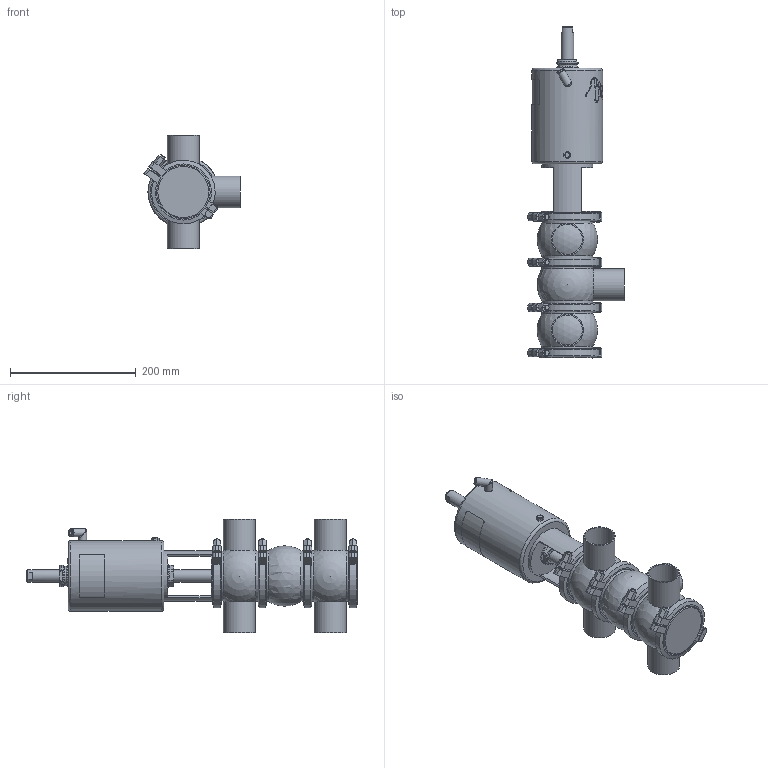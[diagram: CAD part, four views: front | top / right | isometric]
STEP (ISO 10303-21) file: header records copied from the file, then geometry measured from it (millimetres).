
FILE_DESCRIPTION (( 'STEP AP214' ), '1' );
FILE_NAME ('INNOVA L W W OD 2 T2 AS NC_10.241.16.0028.STEP', '2024-08-07T07:09:00', ( '' ), ( '' ), 'SwSTEP 2.0', 'SolidWorks 2023', '' );
FILE_SCHEMA (( 'AUTOMOTIVE_DESIGN' ));
Length unit declared in the file: millimetre
Products named in the file (7): 10.241.15.0001_DIN 050; 10.240.15.0007_OD 2"; 10.240.15.0010_DN 050; INNOVA L W W OD 2 T2 AS NC_10.241.16.0028; 10.240.15.0014_T2 AS P180; 10.240.15.0006_OD 2"; 10.240.15.0001_DN 050
Assembly tree (10 placements, depth 2):
  INNOVA L W W OD 2 T2 AS NC_10.241.16.0028
    10.240.15.0007_OD 2"  x2
    10.240.15.0006_OD 2"
    10.240.15.0010_DN 050
    10.240.15.0014_T2 AS P180
    10.240.15.0001_DN 050  x4
    10.241.15.0001_DIN 050
Bounding box: 152.59 x 527.27 x 180 mm (x, y, z)
Volume: 3259676.1 mm3; surface area: 393223.4 mm2
Topology: 11 solids, 11 shells, 540 faces, 1416 edges, 923 vertices
Faces by surface type: plane 262, cylinder 140, bspline 80, cone 46, sphere 8, torus 4
Full cylindrical faces by diameter (mm): 6.15 x1, 8 x9, 8.5 x1, 10.5 x1, 12.5 x3, 16 x1, 20 x2, 31 x1, 34.5 x2, 36.5 x1, 47.5 x5, 50.8 x5, 81 x8, 93 x8, 112.5 x1
Entity records: 20742 total; most frequent: CARTESIAN_POINT 11313, ORIENTED_EDGE 1624, DIRECTION 1275, EDGE_CURVE 812, VERTEX_POINT 563, AXIS2_PLACEMENT_3D 493, EDGE_LOOP 431, FACE_OUTER_BOUND 386
